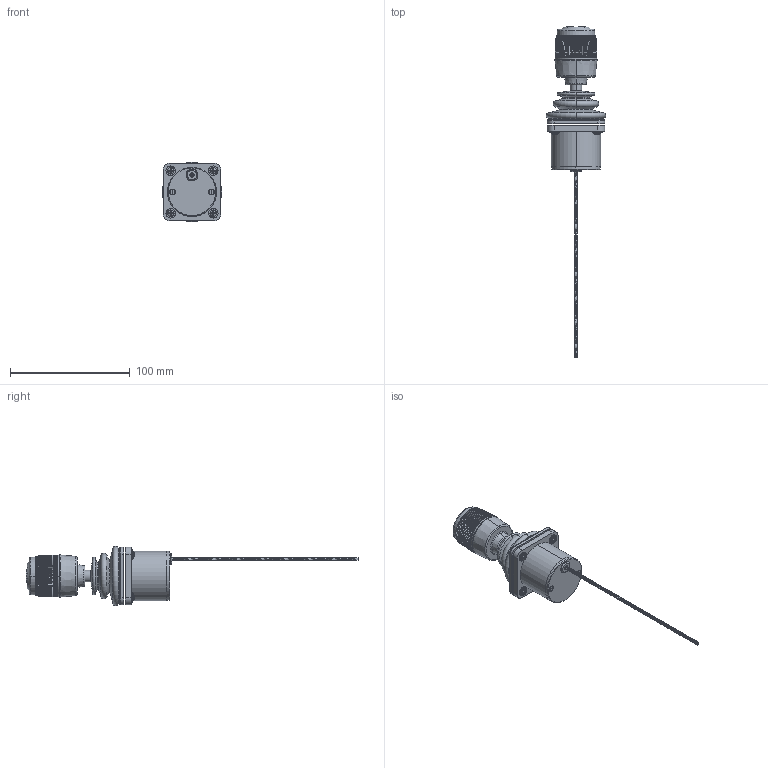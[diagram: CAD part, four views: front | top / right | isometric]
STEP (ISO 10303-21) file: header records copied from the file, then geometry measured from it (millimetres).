
FILE_DESCRIPTION (( 'STEP AP203' ), '1' );
FILE_NAME ('TRY10_551A115.STEP', '2010-10-18T10:08:25', ( 'admin' ), ( '' ), 'SwSTEP 2.0', 'SolidWorks 2007', '' );
FILE_SCHEMA (( 'CONFIG_CONTROL_DESIGN' ));
Length unit declared in the file: millimetre
Products named in the file (1): TRY10_551A115
Bounding box: 49.7 x 277.77 x 49.7 mm (x, y, z)
Surface area: 28241 mm2 (no closed solid volume)
Topology: 0 solids, 24 shells, 490 faces, 1473 edges, 972 vertices
Faces by surface type: plane 329, cylinder 64, torus 49, cone 26, bspline 14, sphere 8
Entity records: 27445 total; most frequent: CARTESIAN_POINT 14312, DIRECTION 2720, ORIENTED_EDGE 2643, EDGE_CURVE 1473, VERTEX_POINT 972, AXIS2_PLACEMENT_3D 964, VECTOR 792, LINE 792
